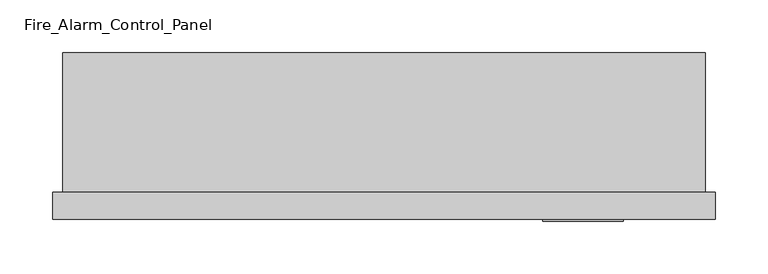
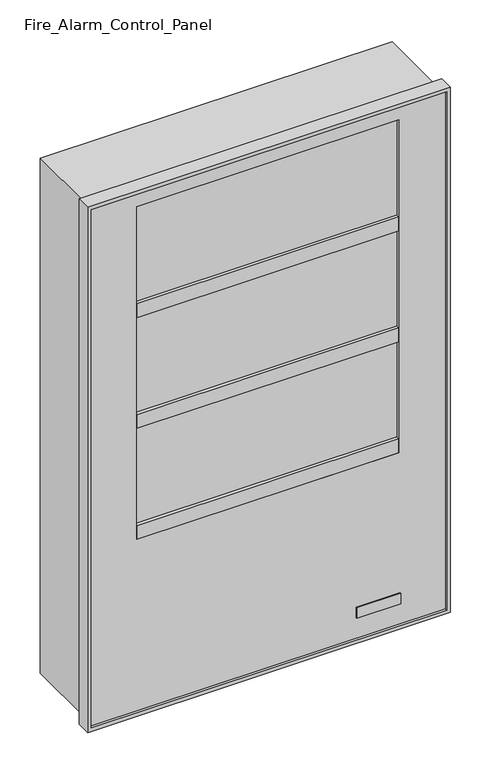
"""IFC4 building model written with IfcOpenShell, lengths in millimetres: alarm geometry, Fire_Alarm_Control_Panel : CAB-4-DR-C4-AMPS-24."""

from ifc_helpers import new_model, si_unit, frame, origin, place, context, project, spatial, polyline, outline, extrude, source, transform, mapped, element, save


def fire_alarm_control_panel_571299bf(model_context):
    return source(origin(), model_context, "Body", "SweptSolid", [
        extrude(outline(polyline([(-227.0125, -53.578125), (227.0125, -53.578125), (227.0125, -74.7447917), (-227.0125, -74.7447917), (-227.0125, -53.578125)])), frame((0.0, 0.0, 312.7375), z_axis=(0.0, 0.0, 1.0), x_axis=(1.0, 0.0, 0.0)), (0.0, 0.0, 1.0), 25.4),
        extrude(outline(polyline([(-227.0125, -53.578125), (227.0125, -53.578125), (227.0125, -74.7447917), (-227.0125, -74.7447917), (-227.0125, -53.578125)])), frame((0.0, 0.0, 515.9375), z_axis=(0.0, 0.0, 1.0), x_axis=(1.0, 0.0, 0.0)), (0.0, 0.0, 1.0), 25.4),
        extrude(outline(polyline([(-227.0125, -53.578125), (227.0125, -53.578125), (227.0125, -74.7447917), (-227.0125, -74.7447917), (-227.0125, -53.578125)])), frame((0.0, 0.0, 719.1375), z_axis=(0.0, 0.0, 1.0), x_axis=(1.0, 0.0, 0.0)), (0.0, 0.0, 1.0), 25.4),
        extrude(outline(polyline([(-227.0125, -58.8697917), (227.0125, -58.8697917), (227.0125, -69.453125), (-227.0125, -69.453125), (-227.0125, -58.8697917)])), frame((0.0, 0.0, 312.7375), z_axis=(0.0, 0.0, 1.0), x_axis=(1.0, 0.0, 0.0)), (0.0, 0.0, 1.0), 609.6),
        extrude(outline(polyline([(947.7375, -307.975), (-1.5875, -307.975), (-1.5875, 307.975), (947.7375, 307.975), (947.7375, -307.975)]), holes=[polyline([(312.7375, 227.0125), (312.7375, -227.0125), (922.3375, -227.0125), (922.3375, 227.0125), (312.7375, 227.0125)])]), frame((0.0, -74.7447917, 0.0), z_axis=(0.0, 1.0, 0.0), x_axis=(0.0, 0.0, 1.0)), (0.0, 0.0, 1.0), 21.1666667),
        extrude(outline(polyline([(954.0875, -314.325), (-7.9375, -314.325), (-7.9375, 314.325), (954.0875, 314.325), (954.0875, -314.325)]), holes=[polyline([(-1.5875, 307.975), (-1.5875, -307.975), (947.7375, -307.975), (947.7375, 307.975), (-1.5875, 307.975)])]), frame((0.0, -78.978125, 0.0), z_axis=(0.0, 1.0, 0.0), x_axis=(0.0, 0.0, 1.0)), (0.0, 0.0, 1.0), 25.4),
        extrude(outline(polyline([(304.8, -53.578125), (-304.8, -53.578125), (-304.8, 78.978125), (304.8, 78.978125), (304.8, -53.578125)])), frame((0.0, 0.0, 1.5875), z_axis=(0.0, 0.0, 1.0), x_axis=(1.0, 0.0, 0.0)), (0.0, 0.0, 1.0), 942.975),
        extrude(outline(polyline([(227.0125, -80.565625), (150.8125, -80.565625), (150.8125, -78.978125), (227.0125, -78.978125), (227.0125, -80.565625)])), frame((0.0, 0.0, 39.6875), z_axis=(0.0, 0.0, 1.0), x_axis=(1.0, 0.0, 0.0)), (0.0, 0.0, 1.0), 19.05),
    ])


if __name__ == "__main__":
    model = new_model("IFC4")
    model_context = context("Model", 3, world=origin())
    ifc_project = project(units=[si_unit("LENGTHUNIT", "METRE", prefix="MILLI")], contexts=[model_context])
    site = spatial("IfcSite", under=ifc_project)
    building = spatial("IfcBuilding", under=site)
    placement = place(None, origin())
    fire_alarm_control_panel_shape = fire_alarm_control_panel_571299bf(model_context)
    element("IfcAlarm", 1, ObjectType="Fire_Alarm_Control_Panel : CAB-4-DR-C4-AMPS-24", at=placement, inside=building, context=model_context, shape_type="MappedRepresentation", body=[
        mapped(fire_alarm_control_panel_shape, transform((0.0, 0.0, 0.0), x_axis=(1.0, 0.0, 0.0), y_axis=(0.0, 1.0, 0.0), z_axis=(0.0, 0.0, 1.0))),
    ])
    save(model, "model.ifc")
